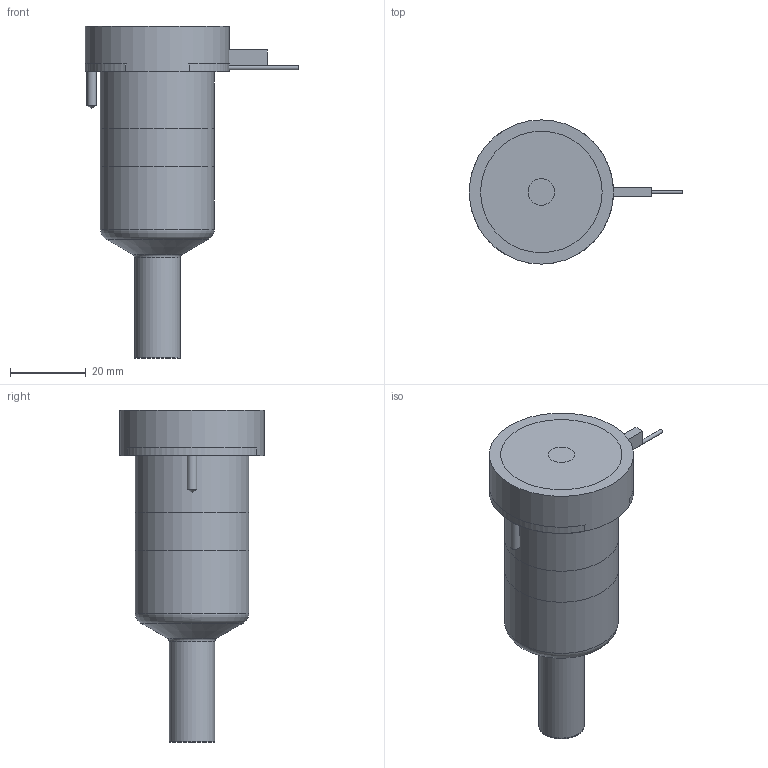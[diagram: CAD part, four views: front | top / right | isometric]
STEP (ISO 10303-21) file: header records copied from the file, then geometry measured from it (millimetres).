
FILE_DESCRIPTION(/* description */ (''),/* implementation_level */ '2;1');
FILE_NAME(/* name */ 'BXTSX-BXISX-BXOSX16055_250C_b',/* time_stamp */ '2008-04-29T14:06:41+12:00',/* author */ (''),/* organization */ (''),/* preprocessor_version */ 'ST-DEVELOPER v9',/* originating_system */ 'UGS - NX 4.0',/* authorisation */ '');
FILE_SCHEMA (('CONFIG_CONTROL_DESIGN'));
Length unit declared in the file: millimetre
Products named in the file (1): BXTSX-BXISX-BXOSX16055_250C_b
Bounding box: 56.25 x 38 x 87.45 mm (x, y, z)
Volume: 94337.8 mm3; surface area: 20557.2 mm2
Topology: 6 solids, 6 shells, 74 faces, 147 edges, 95 vertices
Faces by surface type: plane 35, cylinder 23, cone 8, torus 7, bspline 1
Full cylindrical faces by diameter (mm): 1 x4, 2.5 x2, 7 x1, 11.61 x1, 12.01 x2, 14.8 x1, 25.4 x1, 30 x2, 38 x1
Entity records: 1852 total; most frequent: CARTESIAN_POINT 368, DIRECTION 310, ORIENTED_EDGE 220, AXIS2_PLACEMENT_3D 136, EDGE_LOOP 112, EDGE_CURVE 110, VERTEX_POINT 87, ADVANCED_FACE 74
